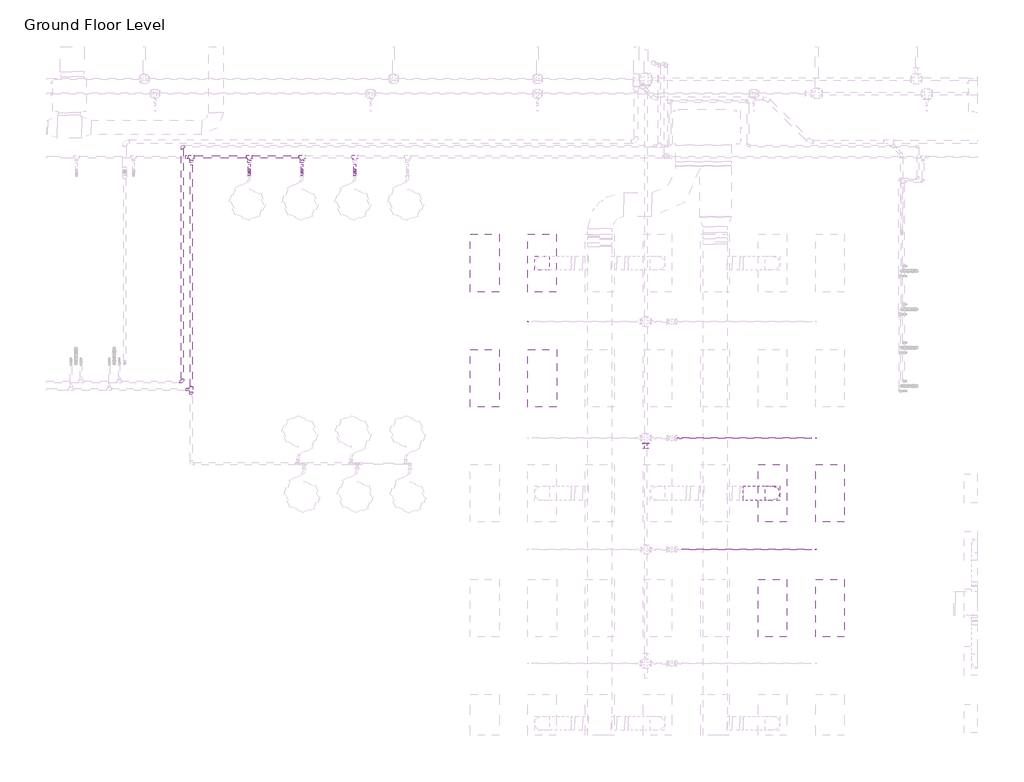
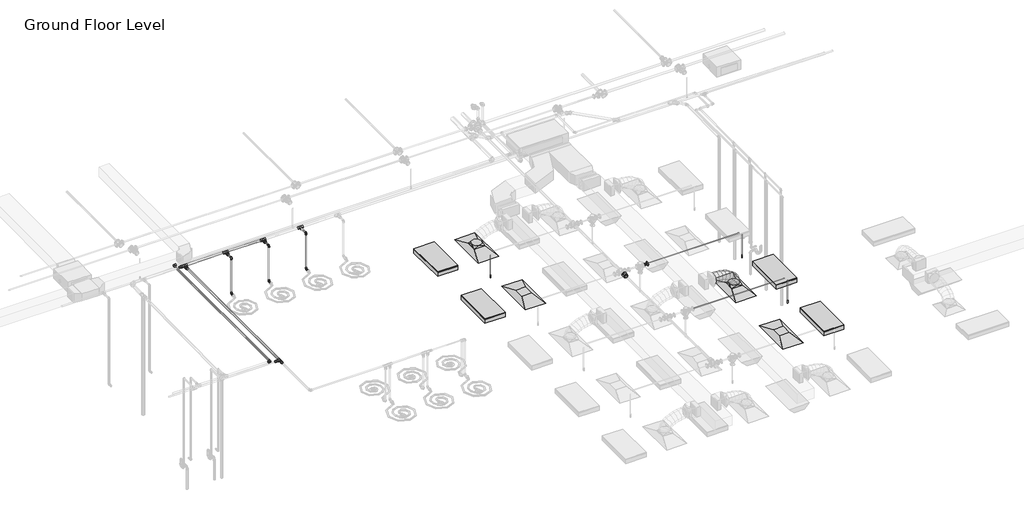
# One storey, part 46 of 66: 21 pipe fittings, 18 pipe segments, 4 air terminals, 4 light fixtures, 3 fire suppression terminals, 2 duct fittings, 1 duct segment.
"""IFC4 building model written with IfcOpenShell, lengths in millimetres."""

from ifc_helpers import new_model, si_unit, point, frame, frame_2d, origin, place, context, project, spatial, circle_curve, ellipse_curve, trimmed, segment, composite_curve, outline, extrude, transform, mapped, element, save
from ifc_brep_helpers import plane_surface, cylinder_surface, advanced_brep
from components import m_return_diffuser_1200x600_1200_x_600_face_300_x_300_d1983ef6, m_rectangular_to_round_transition_angle_45_degree_641efff0, m_sprinkler_dry_pendent_hosted_15_mm_dry_pendent_9bda8e11, m_troffer_light_parabolic_rectangular1_0600x1200mm_4_lamp_86473d4a, m_reducer_flanged_cs_class_150_standard_d42b2106, m_reducer_flanged_cs_class_150_standard_564df86d, standard_517a5a8d, standard_cd25fed3, standard_f1337950, standard_5079833c, standard_92e3b147, standard_bbae78af, standard_69e4ce0e, standard_a995ec02

model = new_model("IFC4")

# Units and contexts
model_context = context("Model", 3, world=origin())
ifc_project = project(units=[si_unit("LENGTHUNIT", "METRE", prefix="MILLI")], contexts=[model_context])

# Site, building, storey
site = spatial("IfcSite", under=ifc_project)
building = spatial("IfcBuilding", under=site)
storey = spatial("IfcBuildingStorey", under=building, Name="Ground Floor Level", Elevation=900.0)

# Air terminals
placement = place(None, origin())
m_return_diffuser_1200x600_1200_x_600_face_300_x_300_shape = m_return_diffuser_1200x600_1200_x_600_face_300_x_300_d1983ef6(model_context)
element("IfcAirTerminal", 1, ObjectType="M_Return Diffuser 1200x600 : 1200 x 600 Face 300 x 300 Connection", at=placement, inside=storey, context=model_context, shape_type="MappedRepresentation", body=[
    mapped(m_return_diffuser_1200x600_1200_x_600_face_300_x_300_shape, transform((-8137.2327605, 8835.2153534, 3650.0), x_axis=(0.0, 1.0, 0.0), y_axis=(-1.0, 0.0, 0.0), z_axis=(0.0, 0.0, 1.0))),
])
element("IfcAirTerminal", 2, ObjectType="M_Return Diffuser 1200x600 : 1200 x 600 Face 300 x 300 Connection", at=placement, inside=storey, context=model_context, shape_type="MappedRepresentation", body=[
    mapped(m_return_diffuser_1200x600_1200_x_600_face_300_x_300_shape, transform((-3337.2327605, 4035.2153534, 3650.0), x_axis=(0.0, 1.0, 0.0), y_axis=(-1.0, 0.0, 0.0), z_axis=(0.0, 0.0, 1.0))),
])
element("IfcAirTerminal", 3, ObjectType="M_Supply Diffuser 1200x600 : 1200 x 600 Face 300 x 300 Connection", at=placement, inside=storey, context=model_context, shape_type="MappedRepresentation", body=[
    mapped(m_return_diffuser_1200x600_1200_x_600_face_300_x_300_shape, transform((-8142.6846929, 11235.2153534, 3650.0), x_axis=(0.0, 1.0, 0.0), y_axis=(-1.0, 0.0, 0.0), z_axis=(0.0, 0.0, 1.0))),
])
element("IfcAirTerminal", 4, ObjectType="M_Supply Diffuser 1200x600 : 1200 x 600 Face 300 x 300 Connection", at=placement, inside=storey, context=model_context, shape_type="MappedRepresentation", body=[
    mapped(m_return_diffuser_1200x600_1200_x_600_face_300_x_300_shape, transform((-3337.2327605, 6435.2153534, 3650.0), x_axis=(0.0, 1.0, 0.0), y_axis=(-1.0, 0.0, 0.0), z_axis=(0.0, 0.0, 1.0))),
])

# Duct fittings
m_rectangular_to_round_transition_angle_45_degree_shape = m_rectangular_to_round_transition_angle_45_degree_641efff0(model_context)
element("IfcDuctFitting", 5, ObjectType="M_Rectangular to Round Transition - Angle : 45 Degree", at=placement, inside=storey, context=model_context, shape_type="MappedRepresentation", body=[
    mapped(m_rectangular_to_round_transition_angle_45_degree_shape, transform((-8142.6846929, 11235.2153534, 3751.6), x_axis=(0.0, 0.0, 1.0), y_axis=(-1.0, 0.0, 0.0), z_axis=(0.0, -1.0, 0.0))),
])
element("IfcDuctFitting", 6, ObjectType="M_Rectangular to Round Transition - Angle : 45 Degree", at=placement, inside=storey, context=model_context, shape_type="MappedRepresentation", body=[
    mapped(m_rectangular_to_round_transition_angle_45_degree_shape, transform((-3337.2327605, 6435.2153534, 3751.6), x_axis=(0.0, 0.0, 1.0), y_axis=(-1.0, 0.0, 0.0), z_axis=(0.0, -1.0, 0.0))),
])

# Duct segment
element("IfcDuctSegment", 7, ObjectType="Flex - Round", at=placement, inside=storey, context=model_context, shape_type="AdvancedBrep", body=[
    advanced_brep(
    [(-3187.2327605, 6435.2153534, 3826.6), (-3337.2327605, 6285.2153534, 3826.6), (-3487.2327605, 6435.2153534, 3826.6), (-3337.2327605, 6585.2153534, 3826.6), (-3187.2327605, 6435.2153534, 3882.1255581), (-3337.2327605, 6285.2153534, 3857.3046173), (-3487.2327605, 6435.2153534, 3832.4836764), (-3337.2327605, 6585.2153534, 3857.3046173), (-3218.4253034, 6435.2153534, 3973.7974983), (-3353.8937102, 6285.2153534, 3906.2695763), (-3489.362117, 6435.2153534, 3838.7416543), (-3353.8937102, 6585.2153534, 3906.2695763), (-3288.1573657, 6435.2153534, 4076.409352), (-3399.7704918, 6285.2153534, 3973.7779999), (-3511.3836179, 6435.2153534, 3871.1466478), (-3399.7704918, 6585.2153534, 3973.7779999), (-3386.082926, 6435.2153534, 4155.7082221), (-3468.7040039, 6285.2153534, 4029.599479), (-3551.3250817, 6435.2153534, 3903.4907359), (-3468.7040039, 6585.2153534, 4029.599479), (-3494.825089, 6435.2153534, 4212.2244369), (-3554.535145, 6285.2153534, 4074.2082221), (-3614.2452011, 6435.2153534, 3936.1920073), (-3554.535145, 6585.2153534, 4074.2082221), (-3609.1145825, 6435.2153534, 4252.3095878), (-3651.104814, 6285.2153534, 4108.0784374), (-3693.0950455, 6435.2153534, 3963.847287), (-3651.104814, 6585.2153534, 4108.0784374), (-3724.8435514, 6435.2153534, 4279.3180942), (-3752.2539093, 6285.2153534, 4131.6843333), (-3779.6642673, 6435.2153534, 3984.0505724), (-3752.2539093, 6585.2153534, 4131.6843333), (-3837.5009499, 6435.2153534, 4294.9499053), (-3851.8233297, 6285.2153534, 4145.500118), (-3866.1457095, 6435.2153534, 3996.0503308), (-3851.8233297, 6585.2153534, 4145.500118), (-3932.3208261, 6435.2153534, 4300.0), (-3936.312488, 6285.2153534, 4150.0), (-3940.3041499, 6435.2153534, 4000.0), (-3936.312488, 6585.2153534, 4150.0), (-3943.6539738, 6435.2153534, 4300.0), (-3943.6539738, 6585.2153534, 4150.0), (-3943.6539738, 6435.2153534, 4000.0), (-3943.6539738, 6285.2153534, 4150.0)],
    [
        (0, 1, circle_curve(frame((-3337.2327605, 6435.2153534, 3826.6), z_axis=(0.0, 0.0, -1.0), x_axis=(1.0, 0.0, 0.0)), 150.0)),
        (1, 2, circle_curve(frame((-3337.2327605, 6435.2153534, 3826.6), z_axis=(0.0, 0.0, -1.0), x_axis=(1.0, 0.0, 0.0)), 150.0)),
        (2, 3, circle_curve(frame((-3337.2327605, 6435.2153534, 3826.6), z_axis=(0.0, 0.0, -1.0), x_axis=(1.0, 0.0, 0.0)), 150.0)),
        (3, 0, circle_curve(frame((-3337.2327605, 6435.2153534, 3826.6), z_axis=(0.0, 0.0, -1.0), x_axis=(1.0, 0.0, 0.0)), 150.0)),
        (0, 4),
        (4, 5, ellipse_curve(frame((-3337.2327605, 6435.2153534, 3857.3046173), z_axis=(0.16325299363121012, 0.0, -0.9865842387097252), x_axis=(-0.9865842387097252, 0.0, -0.16325299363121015)), 152.0397287, 150.0)),
        (5, 1),
        (5, 6, ellipse_curve(frame((-3337.2327605, 6435.2153534, 3857.3046173), z_axis=(0.16325299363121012, 0.0, -0.9865842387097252), x_axis=(-0.9865842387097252, 0.0, -0.16325299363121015)), 152.0397287, 150.0)),
        (6, 2),
        (6, 7, ellipse_curve(frame((-3337.2327605, 6435.2153534, 3857.3046173), z_axis=(0.16325299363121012, 0.0, -0.9865842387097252), x_axis=(-0.9865842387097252, 0.0, -0.16325299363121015)), 152.0397287, 150.0)),
        (7, 3),
        (7, 4, ellipse_curve(frame((-3337.2327605, 6435.2153534, 3857.3046173), z_axis=(0.16325299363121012, 0.0, -0.9865842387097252), x_axis=(-0.9865842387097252, 0.0, -0.16325299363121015)), 152.0397287, 150.0)),
        (4, 8),
        (8, 9, ellipse_curve(frame((-3353.8937102, 6435.2153534, 3906.2695763), z_axis=(0.446123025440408, 0.0, -0.894971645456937), x_axis=(-0.8949716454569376, 0.0, -0.44612302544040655)), 151.3661438, 150.0)),
        (9, 5),
        (9, 10, ellipse_curve(frame((-3353.8937102, 6435.2153534, 3906.2695763), z_axis=(0.446123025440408, 0.0, -0.894971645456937), x_axis=(-0.8949716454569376, 0.0, -0.44612302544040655)), 151.3661438, 150.0)),
        (10, 6),
        (10, 11, ellipse_curve(frame((-3353.8937102, 6435.2153534, 3906.2695763), z_axis=(0.446123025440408, 0.0, -0.894971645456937), x_axis=(-0.8949716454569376, 0.0, -0.44612302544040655)), 151.3661438, 150.0)),
        (11, 7),
        (11, 8, ellipse_curve(frame((-3353.8937102, 6435.2153534, 3906.2695763), z_axis=(0.446123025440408, 0.0, -0.894971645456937), x_axis=(-0.8949716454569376, 0.0, -0.44612302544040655)), 151.3661438, 150.0)),
        (8, 12),
        (12, 13, ellipse_curve(frame((-3399.7704918, 6435.2153534, 3973.7779999), z_axis=(0.6768681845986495, 0.0, -0.7361042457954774), x_axis=(-0.7361042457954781, 0.0, -0.6768681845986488)), 151.626793, 150.0)),
        (13, 9),
        (13, 14, ellipse_curve(frame((-3399.7704918, 6435.2153534, 3973.7779999), z_axis=(0.6768681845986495, 0.0, -0.7361042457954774), x_axis=(-0.7361042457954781, 0.0, -0.6768681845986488)), 151.626793, 150.0)),
        (14, 10),
        (14, 15, ellipse_curve(frame((-3399.7704918, 6435.2153534, 3973.7779999), z_axis=(0.6768681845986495, 0.0, -0.7361042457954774), x_axis=(-0.7361042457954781, 0.0, -0.6768681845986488)), 151.626793, 150.0)),
        (15, 11),
        (15, 12, ellipse_curve(frame((-3399.7704918, 6435.2153534, 3973.7779999), z_axis=(0.6768681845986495, 0.0, -0.7361042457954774), x_axis=(-0.7361042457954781, 0.0, -0.6768681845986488)), 151.626793, 150.0)),
        (12, 16),
        (16, 17, ellipse_curve(frame((-3468.7040039, 6435.2153534, 4029.599479), z_axis=(0.8364668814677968, 0.0, -0.5480174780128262), x_axis=(-0.5480174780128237, 0.0, -0.8364668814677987)), 150.7635818, 150.0)),
        (17, 13),
        (17, 18, ellipse_curve(frame((-3468.7040039, 6435.2153534, 4029.599479), z_axis=(0.8364668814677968, 0.0, -0.5480174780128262), x_axis=(-0.5480174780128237, 0.0, -0.8364668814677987)), 150.7635818, 150.0)),
        (18, 14),
        (18, 19, ellipse_curve(frame((-3468.7040039, 6435.2153534, 4029.599479), z_axis=(0.8364668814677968, 0.0, -0.5480174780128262), x_axis=(-0.5480174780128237, 0.0, -0.8364668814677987)), 150.7635818, 150.0)),
        (19, 15),
        (19, 16, ellipse_curve(frame((-3468.7040039, 6435.2153534, 4029.599479), z_axis=(0.8364668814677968, 0.0, -0.5480174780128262), x_axis=(-0.5480174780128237, 0.0, -0.8364668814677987)), 150.7635818, 150.0)),
        (16, 20),
        (20, 21, ellipse_curve(frame((-3554.535145, 6435.2153534, 4074.2082221), z_axis=(0.9177907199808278, 0.0, -0.3970644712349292), x_axis=(-0.3970644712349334, 0.0, -0.917790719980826)), 150.378743, 150.0)),
        (21, 17),
        (21, 22, ellipse_curve(frame((-3554.535145, 6435.2153534, 4074.2082221), z_axis=(0.9177907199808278, 0.0, -0.3970644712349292), x_axis=(-0.3970644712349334, 0.0, -0.917790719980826)), 150.378743, 150.0)),
        (22, 18),
        (22, 23, ellipse_curve(frame((-3554.535145, 6435.2153534, 4074.2082221), z_axis=(0.9177907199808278, 0.0, -0.3970644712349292), x_axis=(-0.3970644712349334, 0.0, -0.917790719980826)), 150.378743, 150.0)),
        (23, 19),
        (23, 20, ellipse_curve(frame((-3554.535145, 6435.2153534, 4074.2082221), z_axis=(0.9177907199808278, 0.0, -0.3970644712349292), x_axis=(-0.3970644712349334, 0.0, -0.917790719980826)), 150.378743, 150.0)),
        (20, 24),
        (24, 25, ellipse_curve(frame((-3651.104814, 6435.2153534, 4108.0784374), z_axis=(0.9601380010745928, 0.0, -0.2795264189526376), x_axis=(-0.2795264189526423, 0.0, -0.9601380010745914)), 150.2191875, 150.0)),
        (25, 21),
        (25, 26, ellipse_curve(frame((-3651.104814, 6435.2153534, 4108.0784374), z_axis=(0.9601380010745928, 0.0, -0.2795264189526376), x_axis=(-0.2795264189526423, 0.0, -0.9601380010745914)), 150.2191875, 150.0)),
        (26, 22),
        (26, 27, ellipse_curve(frame((-3651.104814, 6435.2153534, 4108.0784374), z_axis=(0.9601380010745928, 0.0, -0.2795264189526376), x_axis=(-0.2795264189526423, 0.0, -0.9601380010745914)), 150.2191875, 150.0)),
        (27, 23),
        (27, 24, ellipse_curve(frame((-3651.104814, 6435.2153534, 4108.0784374), z_axis=(0.9601380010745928, 0.0, -0.2795264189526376), x_axis=(-0.2795264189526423, 0.0, -0.9601380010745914)), 150.2191875, 150.0)),
        (24, 28),
        (28, 29, ellipse_curve(frame((-3752.2539093, 6435.2153534, 4131.6843333), z_axis=(0.9831975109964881, 0.0, -0.18254493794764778), x_axis=(-0.18254493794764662, 0.0, -0.9831975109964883)), 150.1567684, 150.0)),
        (29, 25),
        (29, 30, ellipse_curve(frame((-3752.2539093, 6435.2153534, 4131.6843333), z_axis=(0.9831975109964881, 0.0, -0.18254493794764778), x_axis=(-0.18254493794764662, 0.0, -0.9831975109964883)), 150.1567684, 150.0)),
        (30, 26),
        (30, 31, ellipse_curve(frame((-3752.2539093, 6435.2153534, 4131.6843333), z_axis=(0.9831975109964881, 0.0, -0.18254493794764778), x_axis=(-0.18254493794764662, 0.0, -0.9831975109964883)), 150.1567684, 150.0)),
        (31, 27),
        (31, 28, ellipse_curve(frame((-3752.2539093, 6435.2153534, 4131.6843333), z_axis=(0.9831975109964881, 0.0, -0.18254493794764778), x_axis=(-0.18254493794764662, 0.0, -0.9831975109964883)), 150.1567684, 150.0)),
        (28, 32),
        (32, 33, ellipse_curve(frame((-3851.8233297, 6435.2153534, 4145.500118), z_axis=(0.9954393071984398, 0.0, -0.09539698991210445), x_axis=(-0.09539698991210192, 0.0, -0.99543930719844)), 150.1345046, 150.0)),
        (33, 29),
        (33, 34, ellipse_curve(frame((-3851.8233297, 6435.2153534, 4145.500118), z_axis=(0.9954393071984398, 0.0, -0.09539698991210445), x_axis=(-0.09539698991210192, 0.0, -0.99543930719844)), 150.1345046, 150.0)),
        (34, 30),
        (34, 35, ellipse_curve(frame((-3851.8233297, 6435.2153534, 4145.500118), z_axis=(0.9954393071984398, 0.0, -0.09539698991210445), x_axis=(-0.09539698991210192, 0.0, -0.99543930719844)), 150.1345046, 150.0)),
        (35, 31),
        (35, 32, ellipse_curve(frame((-3851.8233297, 6435.2153534, 4145.500118), z_axis=(0.9954393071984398, 0.0, -0.09539698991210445), x_axis=(-0.09539698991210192, 0.0, -0.99543930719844)), 150.1345046, 150.0)),
        (32, 36),
        (36, 37, ellipse_curve(frame((-3936.312488, 6435.2153534, 4150.0), z_axis=(0.9996461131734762, 0.0, -0.02660166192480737), x_axis=(-0.026601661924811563, 0.0, -0.9996461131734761)), 150.0531018, 150.0)),
        (37, 33),
        (37, 38, ellipse_curve(frame((-3936.312488, 6435.2153534, 4150.0), z_axis=(0.9996461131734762, 0.0, -0.02660166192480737), x_axis=(-0.026601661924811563, 0.0, -0.9996461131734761)), 150.0531018, 150.0)),
        (38, 34),
        (38, 39, ellipse_curve(frame((-3936.312488, 6435.2153534, 4150.0), z_axis=(0.9996461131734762, 0.0, -0.02660166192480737), x_axis=(-0.026601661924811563, 0.0, -0.9996461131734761)), 150.0531018, 150.0)),
        (39, 35),
        (39, 36, ellipse_curve(frame((-3936.312488, 6435.2153534, 4150.0), z_axis=(0.9996461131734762, 0.0, -0.02660166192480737), x_axis=(-0.026601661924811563, 0.0, -0.9996461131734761)), 150.0531018, 150.0)),
        (40, 41, circle_curve(frame((-3943.6539738, 6435.2153534, 4150.0), z_axis=(-1.0, 0.0, 0.0), x_axis=(0.0, 0.0, 1.0)), 150.0)),
        (41, 42, circle_curve(frame((-3943.6539738, 6435.2153534, 4150.0), z_axis=(-1.0, 0.0, 0.0), x_axis=(0.0, 0.0, 1.0)), 150.0)),
        (42, 43, circle_curve(frame((-3943.6539738, 6435.2153534, 4150.0), z_axis=(-1.0, 0.0, 0.0), x_axis=(0.0, 0.0, 1.0)), 150.0)),
        (43, 40, circle_curve(frame((-3943.6539738, 6435.2153534, 4150.0), z_axis=(-1.0, 0.0, 0.0), x_axis=(0.0, 0.0, 1.0)), 150.0)),
        (36, 40),
        (43, 37),
        (42, 38),
        (41, 39),
    ],
    [
        plane_surface(frame((-3337.2327605, 6285.2153534, 3826.6), z_axis=(0.0, 0.0, -1.0), x_axis=(1.0, 0.0, 0.0))),
        cylinder_surface(frame((-3337.2327605, 6435.2153534, 3826.6), z_axis=(0.0, 0.0, -1.0), x_axis=(1.0, 0.0, 0.0)), 150.0),
        cylinder_surface(frame((-3337.2327605, 6435.2153534, 3857.3046173), z_axis=(0.3221256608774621, 0.0, -0.9466969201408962), x_axis=(0.9466969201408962, 0.0, 0.3221256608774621)), 150.0),
        cylinder_surface(frame((-3353.8937102, 6435.2153534, 3906.2695763), z_axis=(0.5620674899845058, 0.0, -0.8270913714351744), x_axis=(0.8270913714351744, 0.0, 0.5620674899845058)), 150.0),
        cylinder_surface(frame((-3399.7704918, 6435.2153534, 3973.7779999), z_axis=(0.7771447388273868, 0.0, -0.6293219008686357), x_axis=(0.6293219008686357, 0.0, 0.7771447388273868)), 150.0),
        cylinder_surface(frame((-3468.7040039, 6435.2153534, 4029.599479), z_axis=(0.8873160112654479, 0.0, -0.4611618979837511), x_axis=(0.4611618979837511, 0.0, 0.8873160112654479)), 150.0),
        cylinder_surface(frame((-3554.535145, 6435.2153534, 4074.2082221), z_axis=(0.9436423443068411, 0.0, -0.3309669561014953), x_axis=(0.3309669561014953, 0.0, 0.9436423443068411)), 150.0),
        cylinder_surface(frame((-3651.104814, 6435.2153534, 4108.0784374), z_axis=(0.973831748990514, 0.0, -0.22727015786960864), x_axis=(0.22727015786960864, 0.0, 0.973831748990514)), 150.0),
        cylinder_surface(frame((-3752.2539093, 6435.2153534, 4131.6843333), z_axis=(0.9905102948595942, 0.0, -0.1374385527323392), x_axis=(0.1374385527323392, 0.0, 0.9905102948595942)), 150.0),
        cylinder_surface(frame((-3851.8233297, 6435.2153534, 4145.500118), z_axis=(0.9985847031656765, 0.0, -0.05318449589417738), x_axis=(0.05318449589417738, 0.0, 0.9985847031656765)), 150.0),
        plane_surface(frame((-3943.6539738, 6435.2153534, 4000.0), z_axis=(-1.0, 0.0, 0.0), x_axis=(0.0, -1.0, 0.0))),
        cylinder_surface(frame((-3936.312488, 6435.2153534, 4150.0), z_axis=(1.0, 0.0, 0.0), x_axis=(0.0, 0.0, 1.0)), 150.0),
    ],
    [
        (0, [[1, 2, 3, 4]]),
        (1, [[-1, 5, 6, 7]]),
        (1, [[-2, -7, 8, 9]]),
        (1, [[-3, -9, 10, 11]]),
        (1, [[-4, -11, 12, -5]]),
        (2, [[-6, 13, 14, 15]]),
        (2, [[-8, -15, 16, 17]]),
        (2, [[-10, -17, 18, 19]]),
        (2, [[-12, -19, 20, -13]]),
        (3, [[-14, 21, 22, 23]]),
        (3, [[-16, -23, 24, 25]]),
        (3, [[-18, -25, 26, 27]]),
        (3, [[-20, -27, 28, -21]]),
        (4, [[-22, 29, 30, 31]]),
        (4, [[-24, -31, 32, 33]]),
        (4, [[-26, -33, 34, 35]]),
        (4, [[-28, -35, 36, -29]]),
        (5, [[-30, 37, 38, 39]]),
        (5, [[-32, -39, 40, 41]]),
        (5, [[-34, -41, 42, 43]]),
        (5, [[-36, -43, 44, -37]]),
        (6, [[-38, 45, 46, 47]]),
        (6, [[-40, -47, 48, 49]]),
        (6, [[-42, -49, 50, 51]]),
        (6, [[-44, -51, 52, -45]]),
        (7, [[-46, 53, 54, 55]]),
        (7, [[-48, -55, 56, 57]]),
        (7, [[-50, -57, 58, 59]]),
        (7, [[-52, -59, 60, -53]]),
        (8, [[-54, 61, 62, 63]]),
        (8, [[-56, -63, 64, 65]]),
        (8, [[-58, -65, 66, 67]]),
        (8, [[-60, -67, 68, -61]]),
        (9, [[-62, 69, 70, 71]]),
        (9, [[-64, -71, 72, 73]]),
        (9, [[-66, -73, 74, 75]]),
        (9, [[-68, -75, 76, -69]]),
        (10, [[77, 78, 79, 80]]),
        (11, [[-70, 81, -80, 82]]),
        (11, [[-72, -82, -79, 83]]),
        (11, [[-74, -83, -78, 84]]),
        (11, [[-76, -84, -77, -81]]),
    ],
),
])

# Fire suppression terminals
m_sprinkler_dry_pendent_hosted_15_mm_dry_pendent_shape = m_sprinkler_dry_pendent_hosted_15_mm_dry_pendent_9bda8e11(model_context)
element("IfcFireSuppressionTerminal", 8, ObjectType="M_Sprinkler - Dry - Pendent - Hosted : 15 mm Dry Pendent", at=placement, inside=storey, context=model_context, shape_type="MappedRepresentation", body=[
    mapped(m_sprinkler_dry_pendent_hosted_15_mm_dry_pendent_shape, transform((-8437.2327605, 10013.008259, 3650.0), x_axis=(1.0, 0.0, 0.0), y_axis=(0.0, -1.0, 0.0), z_axis=(0.0, 0.0, -1.0))),
])
element("IfcFireSuppressionTerminal", 9, ObjectType="M_Sprinkler - Dry - Pendent - Hosted : 15 mm Dry Pendent", at=placement, inside=storey, context=model_context, shape_type="MappedRepresentation", body=[
    mapped(m_sprinkler_dry_pendent_hosted_15_mm_dry_pendent_shape, transform((-2437.2327605, 7582.7040742, 3650.0), x_axis=(1.0, 0.0, 0.0), y_axis=(0.0, -1.0, 0.0), z_axis=(0.0, 0.0, -1.0))),
])
element("IfcFireSuppressionTerminal", 10, ObjectType="M_Sprinkler - Dry - Pendent - Hosted : 15 mm Dry Pendent", at=placement, inside=storey, context=model_context, shape_type="MappedRepresentation", body=[
    mapped(m_sprinkler_dry_pendent_hosted_15_mm_dry_pendent_shape, transform((-2437.2327605, 5261.0372753, 3650.0), x_axis=(1.0, 0.0, 0.0), y_axis=(0.0, -1.0, 0.0), z_axis=(0.0, 0.0, -1.0))),
])

# Light fixtures
m_troffer_light_parabolic_rectangular1_0600x1200mm_4_lamp_shape = m_troffer_light_parabolic_rectangular1_0600x1200mm_4_lamp_86473d4a(model_context)
element("IfcLightFixture", 11, ObjectType="M_Troffer Light - Parabolic Rectangular1 : 0600x1200mm(4 Lamp) - 277V 2", at=placement, inside=storey, context=model_context, shape_type="MappedRepresentation", body=[
    mapped(m_troffer_light_parabolic_rectangular1_0600x1200mm_4_lamp_shape, transform((-9396.6986926, 11253.918855, 3650.0), x_axis=(0.0, 1.0, 0.0), y_axis=(-1.0, 0.0, 0.0), z_axis=(0.0, 0.0, 1.0))),
])
element("IfcLightFixture", 12, ObjectType="M_Troffer Light - Parabolic Rectangular1 : 0600x1200mm(4 Lamp) - 277V 2", at=placement, inside=storey, context=model_context, shape_type="MappedRepresentation", body=[
    mapped(m_troffer_light_parabolic_rectangular1_0600x1200mm_4_lamp_shape, transform((-9396.6986926, 8853.918855, 3650.0), x_axis=(0.0, 1.0, 0.0), y_axis=(-1.0, 0.0, 0.0), z_axis=(0.0, 0.0, 1.0))),
])
element("IfcLightFixture", 13, ObjectType="M_Troffer Light - Parabolic Rectangular1 : 0600x1200mm(4 Lamp) - 277V 2", at=placement, inside=storey, context=model_context, shape_type="MappedRepresentation", body=[
    mapped(m_troffer_light_parabolic_rectangular1_0600x1200mm_4_lamp_shape, transform((-2196.6986926, 6453.918855, 3650.0), x_axis=(0.0, 1.0, 0.0), y_axis=(-1.0, 0.0, 0.0), z_axis=(0.0, 0.0, 1.0))),
])
element("IfcLightFixture", 14, ObjectType="M_Troffer Light - Parabolic Rectangular1 : 0600x1200mm(4 Lamp) - 277V 2", at=placement, inside=storey, context=model_context, shape_type="MappedRepresentation", body=[
    mapped(m_troffer_light_parabolic_rectangular1_0600x1200mm_4_lamp_shape, transform((-2196.6986926, 4053.918855, 3650.0), x_axis=(0.0, 1.0, 0.0), y_axis=(-1.0, 0.0, 0.0), z_axis=(0.0, 0.0, 1.0))),
])

# Pipe fittings
m_reducer_flanged_cs_class_150_standard_shape = m_reducer_flanged_cs_class_150_standard_d42b2106(model_context)
element("IfcPipeFitting", 15, ObjectType="M_Reducer - Flanged - CS - Class 150 : Standard", at=placement, inside=storey, context=model_context, shape_type="MappedRepresentation", body=[
    mapped(m_reducer_flanged_cs_class_150_standard_shape, transform((-5336.5241668, 7582.7040742, 4360.0), x_axis=(1.0, 0.0, 0.0), y_axis=(0.0, 1.0, 0.0), z_axis=(0.0, 0.0, 1.0))),
])
m_reducer_flanged_cs_class_150_standard_2_shape = m_reducer_flanged_cs_class_150_standard_564df86d(model_context)
element("IfcPipeFitting", 16, ObjectType="M_Reducer - Flanged - CS - Class 150 : Standard", at=placement, inside=storey, context=model_context, shape_type="MappedRepresentation", body=[
    mapped(m_reducer_flanged_cs_class_150_standard_2_shape, transform((-5978.130502, 7480.7040742, 4360.0), x_axis=(0.0, -1.0, 0.0), y_axis=(1.0, 0.0, 0.0), z_axis=(0.0, 0.0, 1.0))),
])
standard_shape = standard_517a5a8d(model_context)
element("IfcPipeFitting", 17, ObjectType="M_Elbow - CPVC - Sch 40 : Standard", at=placement, inside=storey, context=model_context, shape_type="MappedRepresentation", body=[
    mapped(standard_shape, transform((-14247.2327605, 13150.8347997, 3200.0), x_axis=(0.0, 1.0, 0.0), y_axis=(0.0, 0.0, 1.0), z_axis=(1.0, 0.0, 0.0))),
])
element("IfcPipeFitting", 18, ObjectType="M_Elbow - CPVC - Sch 40 : Standard", at=placement, inside=storey, context=model_context, shape_type="MappedRepresentation", body=[
    mapped(standard_shape, transform((-14247.2327605, 13150.8347997, 4315.0), x_axis=(0.0, 0.0, 1.0), y_axis=(0.0, 1.0, 0.0), z_axis=(-1.0, 0.0, 0.0))),
])
element("IfcPipeFitting", 19, ObjectType="M_Elbow - CPVC - Sch 40 : Standard", at=placement, inside=storey, context=model_context, shape_type="MappedRepresentation", body=[
    mapped(standard_shape, transform((-13147.2327605, 13150.8347997, 4315.0), x_axis=(0.0, 0.0, 1.0), y_axis=(0.0, 1.0, 0.0), z_axis=(-1.0, 0.0, 0.0))),
])
element("IfcPipeFitting", 20, ObjectType="M_Elbow - CPVC - Sch 40 : Standard", at=placement, inside=storey, context=model_context, shape_type="MappedRepresentation", body=[
    mapped(standard_shape, transform((-12047.2327605, 13150.8347997, 4315.0), x_axis=(0.0, 0.0, 1.0), y_axis=(0.0, 1.0, 0.0), z_axis=(-1.0, 0.0, 0.0))),
])
element("IfcPipeFitting", 21, ObjectType="M_Elbow - CPVC - Sch 40 : Standard", at=placement, inside=storey, context=model_context, shape_type="MappedRepresentation", body=[
    mapped(standard_shape, transform((-13147.2327605, 13150.8347997, 3200.0), x_axis=(0.0, 0.0, -1.0), y_axis=(0.0, -1.0, 0.0), z_axis=(-1.0, 0.0, 0.0))),
])
element("IfcPipeFitting", 22, ObjectType="M_Elbow - CPVC - Sch 40 : Standard", at=placement, inside=storey, context=model_context, shape_type="MappedRepresentation", body=[
    mapped(standard_shape, transform((-12047.2327605, 13150.8347997, 3200.0), x_axis=(0.0, 0.0, -1.0), y_axis=(0.0, -1.0, 0.0), z_axis=(-1.0, 0.0, 0.0))),
])
standard_2_shape = standard_cd25fed3(model_context)
element("IfcPipeFitting", 23, ObjectType="M_Tee - CPVC - Sch 40 : Standard", at=placement, inside=storey, context=model_context, shape_type="MappedRepresentation", body=[
    mapped(standard_2_shape, transform((-14247.2327605, 13449.9865561, 4315.0), x_axis=(-1.0, 0.0, 0.0), y_axis=(0.0, 1.0, 0.0), z_axis=(0.0, 0.0, -1.0))),
])
element("IfcPipeFitting", 24, ObjectType="M_Tee - CPVC - Sch 40 : Standard", at=placement, inside=storey, context=model_context, shape_type="MappedRepresentation", body=[
    mapped(standard_2_shape, transform((-13147.2327605, 13449.9865561, 4315.0), x_axis=(-1.0, 0.0, 0.0), y_axis=(0.0, 1.0, 0.0), z_axis=(0.0, 0.0, -1.0))),
])
element("IfcPipeFitting", 25, ObjectType="M_Tee - CPVC - Sch 40 : Standard", at=placement, inside=storey, context=model_context, shape_type="MappedRepresentation", body=[
    mapped(standard_2_shape, transform((-12047.2327605, 13449.9865561, 4315.0), x_axis=(-1.0, 0.0, 0.0), y_axis=(0.0, 1.0, 0.0), z_axis=(0.0, 0.0, -1.0))),
])
element("IfcPipeFitting", 26, ObjectType="M_Tee - CPVC - Sch 40 : Standard", at=placement, inside=storey, context=model_context, shape_type="MappedRepresentation", body=[
    mapped(standard_2_shape, transform((-15455.6408298, 13449.9865561, 4315.0), x_axis=(-1.0, 0.0, 0.0), y_axis=(0.0, 1.0, 0.0), z_axis=(0.0, 0.0, -1.0))),
])
standard_3_shape = standard_f1337950(model_context)
element("IfcPipeFitting", 27, ObjectType="M_Coupling Reducing - CPVC - Sch 40 : Standard", at=placement, inside=storey, context=model_context, shape_type="MappedRepresentation", body=[
    mapped(standard_3_shape, transform((-14247.2327605, 13383.3115561, 4315.0), x_axis=(0.0, -1.0, 0.0), y_axis=(1.0, 0.0, 0.0), z_axis=(0.0, 0.0, 1.0))),
])
element("IfcPipeFitting", 28, ObjectType="M_Coupling Reducing - CPVC - Sch 40 : Standard", at=placement, inside=storey, context=model_context, shape_type="MappedRepresentation", body=[
    mapped(standard_3_shape, transform((-13147.2327605, 13383.3115561, 4315.0), x_axis=(0.0, -1.0, 0.0), y_axis=(1.0, 0.0, 0.0), z_axis=(0.0, 0.0, 1.0))),
])
standard_4_shape = standard_5079833c(model_context)
element("IfcPipeFitting", 29, ObjectType="M_Coupling Reducing - CPVC - Sch 40 : Standard", at=placement, inside=storey, context=model_context, shape_type="MappedRepresentation", body=[
    mapped(standard_4_shape, transform((-15522.3158298, 13449.9865561, 4315.0), x_axis=(-1.0, 0.0, 0.0), y_axis=(0.0, -1.0, 0.0), z_axis=(0.0, 0.0, 1.0))),
])
standard_5_shape = standard_92e3b147(model_context)
element("IfcPipeFitting", 30, ObjectType="M_Coupling Reducing - CPVC - Sch 40 : Standard", at=placement, inside=storey, context=model_context, shape_type="MappedRepresentation", body=[
    mapped(standard_5_shape, transform((-15455.6408298, 13383.3115561, 4315.0), x_axis=(0.0, -1.0, 0.0), y_axis=(1.0, 0.0, 0.0), z_axis=(0.0, 0.0, 1.0))),
])
standard_6_shape = standard_bbae78af(model_context)
element("IfcPipeFitting", 31, ObjectType="M_Tee - CPVC - Sch 40 : Standard", at=placement, inside=storey, context=model_context, shape_type="MappedRepresentation", body=[
    mapped(standard_6_shape, transform((-15455.6408298, 8599.9071734, 4315.0), x_axis=(0.0, 1.0, 0.0), y_axis=(1.0, 0.0, 0.0), z_axis=(0.0, 0.0, -1.0))),
])
standard_7_shape = standard_69e4ce0e(model_context)
element("IfcPipeFitting", 32, ObjectType="M_Elbow - CPVC - Sch 40 : Standard", at=placement, inside=storey, context=model_context, shape_type="MappedRepresentation", body=[
    mapped(standard_7_shape, transform((-15642.8173674, 8755.2153534, 4250.0), x_axis=(1.0, 0.0, 0.0), y_axis=(0.0, 1.0, 0.0), z_axis=(0.0, 0.0, 1.0))),
])
element("IfcPipeFitting", 33, ObjectType="M_Elbow - CPVC - Sch 40 : Standard", at=placement, inside=storey, context=model_context, shape_type="MappedRepresentation", body=[
    mapped(standard_7_shape, transform((-15642.8173674, 13675.2153534, 4250.0), x_axis=(-1.0, 0.0, 0.0), y_axis=(0.0, -1.0, 0.0), z_axis=(0.0, 0.0, 1.0))),
])
standard_8_shape = standard_a995ec02(model_context)
element("IfcPipeFitting", 34, ObjectType="M_Coupling Reducing - CPVC - Sch 40 : Standard", at=placement, inside=storey, context=model_context, shape_type="MappedRepresentation", body=[
    mapped(standard_8_shape, transform((-15455.6408298, 8541.1569734, 4315.0), x_axis=(0.0, -1.0, 0.0), y_axis=(1.0, 0.0, 0.0), z_axis=(0.0, 0.0, 1.0))),
])
element("IfcPipeFitting", 35, ObjectType="M_Coupling Reducing - CPVC - Sch 40 : Standard", at=placement, inside=storey, context=model_context, shape_type="MappedRepresentation", body=[
    mapped(standard_8_shape, transform((-15514.3910298, 8599.9071734, 4315.0), x_axis=(-1.0, 0.0, 0.0), y_axis=(0.0, -1.0, 0.0), z_axis=(0.0, 0.0, 1.0))),
])

# Pipe segments
element("IfcPipeSegment", 36, ObjectType="CPVC", at=placement, inside=storey, context=model_context, shape_type="SweptSolid", body=[
    extrude(outline(composite_curve([segment(trimmed(circle_curve(frame_2d((3200.0, -14247.2327605)), 16.7005), [point((3200.0, -14230.5322605))], [point((3216.7005, -14247.2327605))], False, "CARTESIAN"), True, "CONTINUOUS"), segment(trimmed(circle_curve(frame_2d((3200.0, -14247.2327605)), 16.7005), [point((3216.7005, -14247.2327605))], [point((3200.0, -14263.9332605))], False, "CARTESIAN"), True, "CONTINUOUS"), segment(trimmed(circle_curve(frame_2d((3200.0, -14247.2327605)), 16.7005), [point((3200.0, -14263.9332605))], [point((3183.2995, -14247.2327605))], False, "CARTESIAN"), True, "CONTINUOUS"), segment(trimmed(circle_curve(frame_2d((3200.0, -14247.2327605)), 16.7005), [point((3183.2995, -14247.2327605))], [point((3200.0, -14230.5322605))], False, "CARTESIAN"), True, "CONTINUOUS")], self_intersect=False)), frame((0.0, 13056.8347997, 0.0), z_axis=(0.0, 1.0, 0.0), x_axis=(0.0, 0.0, 1.0)), (0.0, 0.0, 1.0), 50.73745),
])
element("IfcPipeSegment", 37, ObjectType="CPVC", at=placement, inside=storey, context=model_context, shape_type="SweptSolid", body=[
    extrude(outline(composite_curve([segment(trimmed(circle_curve(frame_2d((4315.0, -14247.2327605)), 16.7005), [point((4315.0, -14230.5322605))], [point((4331.7005, -14247.2327605))], False, "CARTESIAN"), True, "CONTINUOUS"), segment(trimmed(circle_curve(frame_2d((4315.0, -14247.2327605)), 16.7005), [point((4331.7005, -14247.2327605))], [point((4315.0, -14263.9332605))], False, "CARTESIAN"), True, "CONTINUOUS"), segment(trimmed(circle_curve(frame_2d((4315.0, -14247.2327605)), 16.7005), [point((4315.0, -14263.9332605))], [point((4298.2995, -14247.2327605))], False, "CARTESIAN"), True, "CONTINUOUS"), segment(trimmed(circle_curve(frame_2d((4315.0, -14247.2327605)), 16.7005), [point((4298.2995, -14247.2327605))], [point((4315.0, -14230.5322605))], False, "CARTESIAN"), True, "CONTINUOUS")], self_intersect=False)), frame((0.0, 13194.0973497, 0.0), z_axis=(0.0, 1.0, 0.0), x_axis=(0.0, 0.0, 1.0)), (0.0, 0.0, 1.0), 109.4153315),
])
element("IfcPipeSegment", 38, ObjectType="CPVC", at=placement, inside=storey, context=model_context, shape_type="SweptSolid", body=[
    extrude(outline(composite_curve([segment(trimmed(circle_curve(frame_2d((-14247.2327605, 13150.8347997)), 16.7005), [point((-14263.9332605, 13150.8347997))], [point((-14247.2327605, 13167.5352997))], False, "CARTESIAN"), True, "CONTINUOUS"), segment(trimmed(circle_curve(frame_2d((-14247.2327605, 13150.8347997)), 16.7005), [point((-14247.2327605, 13167.5352997))], [point((-14230.5322605, 13150.8347997))], False, "CARTESIAN"), True, "CONTINUOUS"), segment(trimmed(circle_curve(frame_2d((-14247.2327605, 13150.8347997)), 16.7005), [point((-14230.5322605, 13150.8347997))], [point((-14247.2327605, 13134.1342997))], False, "CARTESIAN"), True, "CONTINUOUS"), segment(trimmed(circle_curve(frame_2d((-14247.2327605, 13150.8347997)), 16.7005), [point((-14247.2327605, 13134.1342997))], [point((-14263.9332605, 13150.8347997))], False, "CARTESIAN"), True, "CONTINUOUS")], self_intersect=False)), frame((0.0, 0.0, 3243.26255), z_axis=(0.0, 0.0, 1.0), x_axis=(1.0, 0.0, 0.0)), (0.0, 0.0, 1.0), 1028.4749),
])
element("IfcPipeSegment", 39, ObjectType="CPVC", at=placement, inside=storey, context=model_context, shape_type="SweptSolid", body=[
    extrude(outline(composite_curve([segment(trimmed(circle_curve(frame_2d((3200.0, -13147.2327605)), 16.7005), [point((3200.0, -13163.9332605))], [point((3183.2995, -13147.2327605))], False, "CARTESIAN"), True, "CONTINUOUS"), segment(trimmed(circle_curve(frame_2d((3200.0, -13147.2327605)), 16.7005), [point((3183.2995, -13147.2327605))], [point((3200.0, -13130.5322605))], False, "CARTESIAN"), True, "CONTINUOUS"), segment(trimmed(circle_curve(frame_2d((3200.0, -13147.2327605)), 16.7005), [point((3200.0, -13130.5322605))], [point((3216.7005, -13147.2327605))], False, "CARTESIAN"), True, "CONTINUOUS"), segment(trimmed(circle_curve(frame_2d((3200.0, -13147.2327605)), 16.7005), [point((3216.7005, -13147.2327605))], [point((3200.0, -13163.9332605))], False, "CARTESIAN"), True, "CONTINUOUS")], self_intersect=False)), frame((0.0, 13056.8347997, 0.0), z_axis=(0.0, 1.0, 0.0), x_axis=(0.0, 0.0, 1.0)), (0.0, 0.0, 1.0), 50.73745),
])
element("IfcPipeSegment", 40, ObjectType="CPVC", at=placement, inside=storey, context=model_context, shape_type="SweptSolid", body=[
    extrude(outline(composite_curve([segment(trimmed(circle_curve(frame_2d((4315.0, -13147.2327605)), 16.7005), [point((4315.0, -13130.5322605))], [point((4331.7005, -13147.2327605))], False, "CARTESIAN"), True, "CONTINUOUS"), segment(trimmed(circle_curve(frame_2d((4315.0, -13147.2327605)), 16.7005), [point((4331.7005, -13147.2327605))], [point((4315.0, -13163.9332605))], False, "CARTESIAN"), True, "CONTINUOUS"), segment(trimmed(circle_curve(frame_2d((4315.0, -13147.2327605)), 16.7005), [point((4315.0, -13163.9332605))], [point((4298.2995, -13147.2327605))], False, "CARTESIAN"), True, "CONTINUOUS"), segment(trimmed(circle_curve(frame_2d((4315.0, -13147.2327605)), 16.7005), [point((4298.2995, -13147.2327605))], [point((4315.0, -13130.5322605))], False, "CARTESIAN"), True, "CONTINUOUS")], self_intersect=False)), frame((0.0, 13194.0973497, 0.0), z_axis=(0.0, 1.0, 0.0), x_axis=(0.0, 0.0, 1.0)), (0.0, 0.0, 1.0), 109.4153315),
])
element("IfcPipeSegment", 41, ObjectType="CPVC", at=placement, inside=storey, context=model_context, shape_type="SweptSolid", body=[
    extrude(outline(composite_curve([segment(trimmed(circle_curve(frame_2d((-13147.2327605, 13150.8347997)), 16.7005), [point((-13163.9332605, 13150.8347997))], [point((-13147.2327605, 13167.5352997))], False, "CARTESIAN"), True, "CONTINUOUS"), segment(trimmed(circle_curve(frame_2d((-13147.2327605, 13150.8347997)), 16.7005), [point((-13147.2327605, 13167.5352997))], [point((-13130.5322605, 13150.8347997))], False, "CARTESIAN"), True, "CONTINUOUS"), segment(trimmed(circle_curve(frame_2d((-13147.2327605, 13150.8347997)), 16.7005), [point((-13130.5322605, 13150.8347997))], [point((-13147.2327605, 13134.1342997))], False, "CARTESIAN"), True, "CONTINUOUS"), segment(trimmed(circle_curve(frame_2d((-13147.2327605, 13150.8347997)), 16.7005), [point((-13147.2327605, 13134.1342997))], [point((-13163.9332605, 13150.8347997))], False, "CARTESIAN"), True, "CONTINUOUS")], self_intersect=False)), frame((0.0, 0.0, 3243.26255), z_axis=(0.0, 0.0, 1.0), x_axis=(1.0, 0.0, 0.0)), (0.0, 0.0, 1.0), 1028.4749),
])
element("IfcPipeSegment", 42, ObjectType="CPVC", at=placement, inside=storey, context=model_context, shape_type="SweptSolid", body=[
    extrude(outline(composite_curve([segment(trimmed(circle_curve(frame_2d((3200.0, -12047.2327605)), 16.7005), [point((3200.0, -12063.9332605))], [point((3183.2995, -12047.2327605))], False, "CARTESIAN"), True, "CONTINUOUS"), segment(trimmed(circle_curve(frame_2d((3200.0, -12047.2327605)), 16.7005), [point((3183.2995, -12047.2327605))], [point((3200.0, -12030.5322605))], False, "CARTESIAN"), True, "CONTINUOUS"), segment(trimmed(circle_curve(frame_2d((3200.0, -12047.2327605)), 16.7005), [point((3200.0, -12030.5322605))], [point((3216.7005, -12047.2327605))], False, "CARTESIAN"), True, "CONTINUOUS"), segment(trimmed(circle_curve(frame_2d((3200.0, -12047.2327605)), 16.7005), [point((3216.7005, -12047.2327605))], [point((3200.0, -12063.9332605))], False, "CARTESIAN"), True, "CONTINUOUS")], self_intersect=False)), frame((0.0, 13056.8347997, 0.0), z_axis=(0.0, 1.0, 0.0), x_axis=(0.0, 0.0, 1.0)), (0.0, 0.0, 1.0), 50.73745),
])
element("IfcPipeSegment", 43, ObjectType="CPVC", at=placement, inside=storey, context=model_context, shape_type="SweptSolid", body=[
    extrude(outline(composite_curve([segment(trimmed(circle_curve(frame_2d((4315.0, -12047.2327605)), 16.7005), [point((4315.0, -12030.5322605))], [point((4331.7005, -12047.2327605))], False, "CARTESIAN"), True, "CONTINUOUS"), segment(trimmed(circle_curve(frame_2d((4315.0, -12047.2327605)), 16.7005), [point((4331.7005, -12047.2327605))], [point((4315.0, -12063.9332605))], False, "CARTESIAN"), True, "CONTINUOUS"), segment(trimmed(circle_curve(frame_2d((4315.0, -12047.2327605)), 16.7005), [point((4315.0, -12063.9332605))], [point((4298.2995, -12047.2327605))], False, "CARTESIAN"), True, "CONTINUOUS"), segment(trimmed(circle_curve(frame_2d((4315.0, -12047.2327605)), 16.7005), [point((4298.2995, -12047.2327605))], [point((4315.0, -12030.5322605))], False, "CARTESIAN"), True, "CONTINUOUS")], self_intersect=False)), frame((0.0, 13194.0973497, 0.0), z_axis=(0.0, 1.0, 0.0), x_axis=(0.0, 0.0, 1.0)), (0.0, 0.0, 1.0), 109.4153315),
])
element("IfcPipeSegment", 44, ObjectType="CPVC", at=placement, inside=storey, context=model_context, shape_type="SweptSolid", body=[
    extrude(outline(composite_curve([segment(trimmed(circle_curve(frame_2d((-12047.2327605, 13150.8347997)), 16.7005), [point((-12063.9332605, 13150.8347997))], [point((-12047.2327605, 13167.5352997))], False, "CARTESIAN"), True, "CONTINUOUS"), segment(trimmed(circle_curve(frame_2d((-12047.2327605, 13150.8347997)), 16.7005), [point((-12047.2327605, 13167.5352997))], [point((-12030.5322605, 13150.8347997))], False, "CARTESIAN"), True, "CONTINUOUS"), segment(trimmed(circle_curve(frame_2d((-12047.2327605, 13150.8347997)), 16.7005), [point((-12030.5322605, 13150.8347997))], [point((-12047.2327605, 13134.1342997))], False, "CARTESIAN"), True, "CONTINUOUS"), segment(trimmed(circle_curve(frame_2d((-12047.2327605, 13150.8347997)), 16.7005), [point((-12047.2327605, 13134.1342997))], [point((-12063.9332605, 13150.8347997))], False, "CARTESIAN"), True, "CONTINUOUS")], self_intersect=False)), frame((0.0, 0.0, 3243.26255), z_axis=(0.0, 0.0, 1.0), x_axis=(1.0, 0.0, 0.0)), (0.0, 0.0, 1.0), 1028.4749),
])
element("IfcPipeSegment", 45, ObjectType="CPVC", at=placement, inside=storey, context=model_context, shape_type="SweptSolid", body=[
    extrude(outline(composite_curve([segment(trimmed(circle_curve(frame_2d((13449.9865561, 4315.0)), 30.1625), [point((13419.8240561, 4315.0))], [point((13449.9865561, 4345.1625))], False, "CARTESIAN"), True, "CONTINUOUS"), segment(trimmed(circle_curve(frame_2d((13449.9865561, 4315.0)), 30.1625), [point((13449.9865561, 4345.1625))], [point((13480.1490561, 4315.0))], False, "CARTESIAN"), True, "CONTINUOUS"), segment(trimmed(circle_curve(frame_2d((13449.9865561, 4315.0)), 30.1625), [point((13480.1490561, 4315.0))], [point((13449.9865561, 4284.8375))], False, "CARTESIAN"), True, "CONTINUOUS"), segment(trimmed(circle_curve(frame_2d((13449.9865561, 4315.0)), 30.1625), [point((13449.9865561, 4284.8375))], [point((13419.8240561, 4315.0))], False, "CARTESIAN"), True, "CONTINUOUS")], self_intersect=False)), frame((-15388.9658298, 0.0, 0.0), z_axis=(1.0, 0.0, 0.0), x_axis=(0.0, 1.0, 0.0)), (0.0, 0.0, 1.0), 1075.0580693),
])
element("IfcPipeSegment", 46, ObjectType="CPVC", at=placement, inside=storey, context=model_context, shape_type="SweptSolid", body=[
    extrude(outline(composite_curve([segment(trimmed(circle_curve(frame_2d((13449.9865561, 4315.0)), 30.1625), [point((13419.8240561, 4315.0))], [point((13449.9865561, 4345.1625))], False, "CARTESIAN"), True, "CONTINUOUS"), segment(trimmed(circle_curve(frame_2d((13449.9865561, 4315.0)), 30.1625), [point((13449.9865561, 4345.1625))], [point((13480.1490561, 4315.0))], False, "CARTESIAN"), True, "CONTINUOUS"), segment(trimmed(circle_curve(frame_2d((13449.9865561, 4315.0)), 30.1625), [point((13480.1490561, 4315.0))], [point((13449.9865561, 4284.8375))], False, "CARTESIAN"), True, "CONTINUOUS"), segment(trimmed(circle_curve(frame_2d((13449.9865561, 4315.0)), 30.1625), [point((13449.9865561, 4284.8375))], [point((13419.8240561, 4315.0))], False, "CARTESIAN"), True, "CONTINUOUS")], self_intersect=False)), frame((-14180.5577605, 0.0, 0.0), z_axis=(1.0, 0.0, 0.0), x_axis=(0.0, 1.0, 0.0)), (0.0, 0.0, 1.0), 966.65),
])
element("IfcPipeSegment", 47, ObjectType="CPVC", at=placement, inside=storey, context=model_context, shape_type="SweptSolid", body=[
    extrude(outline(composite_curve([segment(trimmed(circle_curve(frame_2d((4315.0, -15455.6408298)), 24.13), [point((4315.0, -15479.7708298))], [point((4290.87, -15455.6408298))], False, "CARTESIAN"), True, "CONTINUOUS"), segment(trimmed(circle_curve(frame_2d((4315.0, -15455.6408298)), 24.13), [point((4290.87, -15455.6408298))], [point((4315.0, -15431.5108298))], False, "CARTESIAN"), True, "CONTINUOUS"), segment(trimmed(circle_curve(frame_2d((4315.0, -15455.6408298)), 24.13), [point((4315.0, -15431.5108298))], [point((4339.13, -15455.6408298))], False, "CARTESIAN"), True, "CONTINUOUS"), segment(trimmed(circle_curve(frame_2d((4315.0, -15455.6408298)), 24.13), [point((4339.13, -15455.6408298))], [point((4315.0, -15479.7708298))], False, "CARTESIAN"), True, "CONTINUOUS")], self_intersect=False)), frame((0.0, 8658.6573734, 0.0), z_axis=(0.0, 1.0, 0.0), x_axis=(0.0, 0.0, 1.0)), (0.0, 0.0, 1.0), 4633.2354328),
])
element("IfcPipeSegment", 48, ObjectType="CPVC", at=placement, inside=storey, context=model_context, shape_type="SweptSolid", body=[
    extrude(outline(composite_curve([segment(trimmed(circle_curve(frame_2d((4250.0, -15642.8173674)), 21.082), [point((4250.0, -15621.7353674))], [point((4271.082, -15642.8173674))], False, "CARTESIAN"), True, "CONTINUOUS"), segment(trimmed(circle_curve(frame_2d((4250.0, -15642.8173674)), 21.082), [point((4271.082, -15642.8173674))], [point((4250.0, -15663.8993674))], False, "CARTESIAN"), True, "CONTINUOUS"), segment(trimmed(circle_curve(frame_2d((4250.0, -15642.8173674)), 21.082), [point((4250.0, -15663.8993674))], [point((4228.918, -15642.8173674))], False, "CARTESIAN"), True, "CONTINUOUS"), segment(trimmed(circle_curve(frame_2d((4250.0, -15642.8173674)), 21.082), [point((4228.918, -15642.8173674))], [point((4250.0, -15621.7353674))], False, "CARTESIAN"), True, "CONTINUOUS")], self_intersect=False)), frame((0.0, 8813.1591034, 0.0), z_axis=(0.0, 1.0, 0.0), x_axis=(0.0, 0.0, 1.0)), (0.0, 0.0, 1.0), 4804.1125),
])
element("IfcPipeSegment", 49, ObjectType="Steel flanged", at=placement, inside=storey, context=model_context, shape_type="SweptSolid", body=[
    extrude(outline(composite_curve([segment(trimmed(circle_curve(frame_2d((-8437.2327605, 10013.008259)), 10.668), [point((-8447.9007605, 10013.008259))], [point((-8437.2327605, 10023.676259))], False, "CARTESIAN"), True, "CONTINUOUS"), segment(trimmed(circle_curve(frame_2d((-8437.2327605, 10013.008259)), 10.668), [point((-8437.2327605, 10023.676259))], [point((-8426.5647605, 10013.008259))], False, "CARTESIAN"), True, "CONTINUOUS"), segment(trimmed(circle_curve(frame_2d((-8437.2327605, 10013.008259)), 10.668), [point((-8426.5647605, 10013.008259))], [point((-8437.2327605, 10002.340259))], False, "CARTESIAN"), True, "CONTINUOUS"), segment(trimmed(circle_curve(frame_2d((-8437.2327605, 10013.008259)), 10.668), [point((-8437.2327605, 10002.340259))], [point((-8447.9007605, 10013.008259))], False, "CARTESIAN"), True, "CONTINUOUS")], self_intersect=False)), frame((0.0, 0.0, 3650.0), z_axis=(0.0, 0.0, 1.0), x_axis=(1.0, 0.0, 0.0)), (0.0, 0.0, 1.0), 616.9914062),
])
element("IfcPipeSegment", 50, ObjectType="Steel flanged", at=placement, inside=storey, context=model_context, shape_type="SweptSolid", body=[
    extrude(outline(composite_curve([segment(trimmed(circle_curve(frame_2d((-2437.2327605, 5261.0372753)), 10.668), [point((-2447.9007605, 5261.0372753))], [point((-2437.2327605, 5271.7052753))], False, "CARTESIAN"), True, "CONTINUOUS"), segment(trimmed(circle_curve(frame_2d((-2437.2327605, 5261.0372753)), 10.668), [point((-2437.2327605, 5271.7052753))], [point((-2426.5647605, 5261.0372753))], False, "CARTESIAN"), True, "CONTINUOUS"), segment(trimmed(circle_curve(frame_2d((-2437.2327605, 5261.0372753)), 10.668), [point((-2426.5647605, 5261.0372753))], [point((-2437.2327605, 5250.3692753))], False, "CARTESIAN"), True, "CONTINUOUS"), segment(trimmed(circle_curve(frame_2d((-2437.2327605, 5261.0372753)), 10.668), [point((-2437.2327605, 5250.3692753))], [point((-2447.9007605, 5261.0372753))], False, "CARTESIAN"), True, "CONTINUOUS")], self_intersect=False)), frame((0.0, 0.0, 3650.0), z_axis=(0.0, 0.0, 1.0), x_axis=(1.0, 0.0, 0.0)), (0.0, 0.0, 1.0), 616.9914063),
])
element("IfcPipeSegment", 51, ObjectType="Steel flanged", at=placement, inside=storey, context=model_context, shape_type="SweptSolid", body=[
    extrude(outline(composite_curve([segment(trimmed(circle_curve(frame_2d((-2437.2327605, 7582.7040742)), 10.668), [point((-2447.9007605, 7582.7040742))], [point((-2437.2327605, 7593.3720742))], False, "CARTESIAN"), True, "CONTINUOUS"), segment(trimmed(circle_curve(frame_2d((-2437.2327605, 7582.7040742)), 10.668), [point((-2437.2327605, 7593.3720742))], [point((-2426.5647605, 7582.7040742))], False, "CARTESIAN"), True, "CONTINUOUS"), segment(trimmed(circle_curve(frame_2d((-2437.2327605, 7582.7040742)), 10.668), [point((-2426.5647605, 7582.7040742))], [point((-2437.2327605, 7572.0360742))], False, "CARTESIAN"), True, "CONTINUOUS"), segment(trimmed(circle_curve(frame_2d((-2437.2327605, 7582.7040742)), 10.668), [point((-2437.2327605, 7572.0360742))], [point((-2447.9007605, 7582.7040742))], False, "CARTESIAN"), True, "CONTINUOUS")], self_intersect=False)), frame((0.0, 0.0, 3650.0), z_axis=(0.0, 0.0, 1.0), x_axis=(1.0, 0.0, 0.0)), (0.0, 0.0, 1.0), 616.9914063),
])
element("IfcPipeSegment", 52, ObjectType="Steel flanged", at=placement, inside=storey, context=model_context, shape_type="SweptSolid", body=[
    extrude(outline(composite_curve([segment(trimmed(circle_curve(frame_2d((5261.0372753, 4360.0)), 10.668), [point((5271.7052753, 4360.0))], [point((5261.0372753, 4349.332))], False, "CARTESIAN"), True, "CONTINUOUS"), segment(trimmed(circle_curve(frame_2d((5261.0372753, 4360.0)), 10.668), [point((5261.0372753, 4349.332))], [point((5250.3692753, 4360.0))], False, "CARTESIAN"), True, "CONTINUOUS"), segment(trimmed(circle_curve(frame_2d((5261.0372753, 4360.0)), 10.668), [point((5250.3692753, 4360.0))], [point((5261.0372753, 4370.668))], False, "CARTESIAN"), True, "CONTINUOUS"), segment(trimmed(circle_curve(frame_2d((5261.0372753, 4360.0)), 10.668), [point((5261.0372753, 4370.668))], [point((5271.7052753, 4360.0))], False, "CARTESIAN"), True, "CONTINUOUS")], self_intersect=False)), frame((-5222.5241668, 0.0, 0.0), z_axis=(1.0, 0.0, 0.0), x_axis=(0.0, 1.0, 0.0)), (0.0, 0.0, 1.0), 2692.2828125),
])
element("IfcPipeSegment", 53, ObjectType="Steel flanged", at=placement, inside=storey, context=model_context, shape_type="SweptSolid", body=[
    extrude(outline(composite_curve([segment(trimmed(circle_curve(frame_2d((7582.7040742, 4360.0)), 10.668), [point((7593.3720742, 4360.0))], [point((7582.7040742, 4349.332))], False, "CARTESIAN"), True, "CONTINUOUS"), segment(trimmed(circle_curve(frame_2d((7582.7040742, 4360.0)), 10.668), [point((7582.7040742, 4349.332))], [point((7572.0360742, 4360.0))], False, "CARTESIAN"), True, "CONTINUOUS"), segment(trimmed(circle_curve(frame_2d((7582.7040742, 4360.0)), 10.668), [point((7572.0360742, 4360.0))], [point((7582.7040742, 4370.668))], False, "CARTESIAN"), True, "CONTINUOUS"), segment(trimmed(circle_curve(frame_2d((7582.7040742, 4360.0)), 10.668), [point((7582.7040742, 4370.668))], [point((7593.3720742, 4360.0))], False, "CARTESIAN"), True, "CONTINUOUS")], self_intersect=False)), frame((-5222.5241668, 0.0, 0.0), z_axis=(1.0, 0.0, 0.0), x_axis=(0.0, 1.0, 0.0)), (0.0, 0.0, 1.0), 2692.2828125),
])

save(model, "model.ifc")
